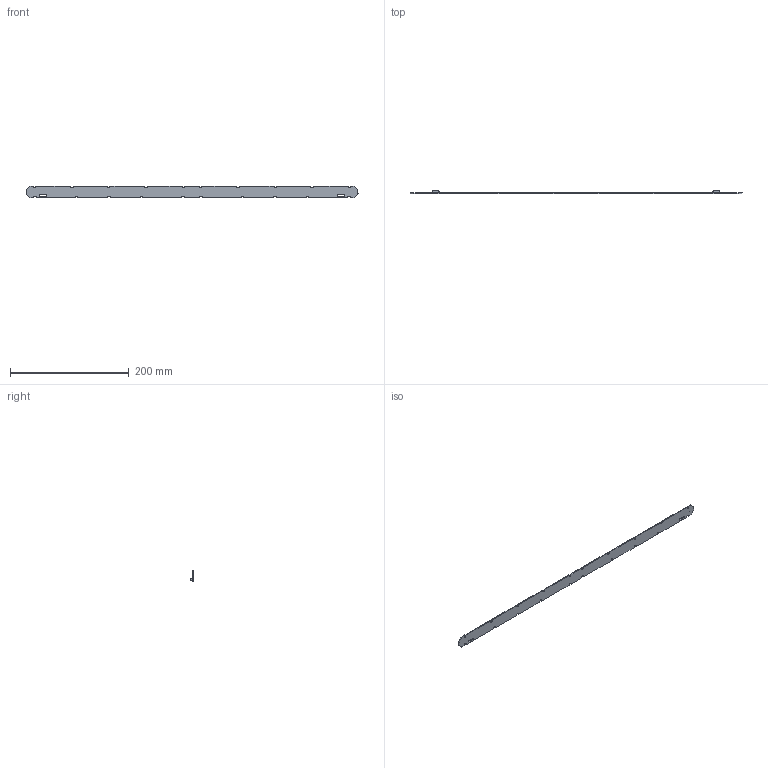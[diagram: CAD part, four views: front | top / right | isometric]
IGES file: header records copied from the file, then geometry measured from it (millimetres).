
Start section: SolidWorks IGES file using analytic representation for surfaces
Global section: file name: D:\ECTR_TEMP\OLQ-batchEngine\queue\temp\4162883swm000.igs; native system: SolidWorks 2017; preprocessor: SolidWorks 2017; author: SYSTEM; date: 200224.095226; units: millimetre
Bounding box: 559.5 x 5.55 x 20 mm (x, y, z)
Surface area: 26205.5 mm2 (no closed solid volume)
Topology: 0 solids, 0 shells, 1568 faces, 9224 edges, 9222 vertices
Faces by surface type: bspline 1462, revolution 106
